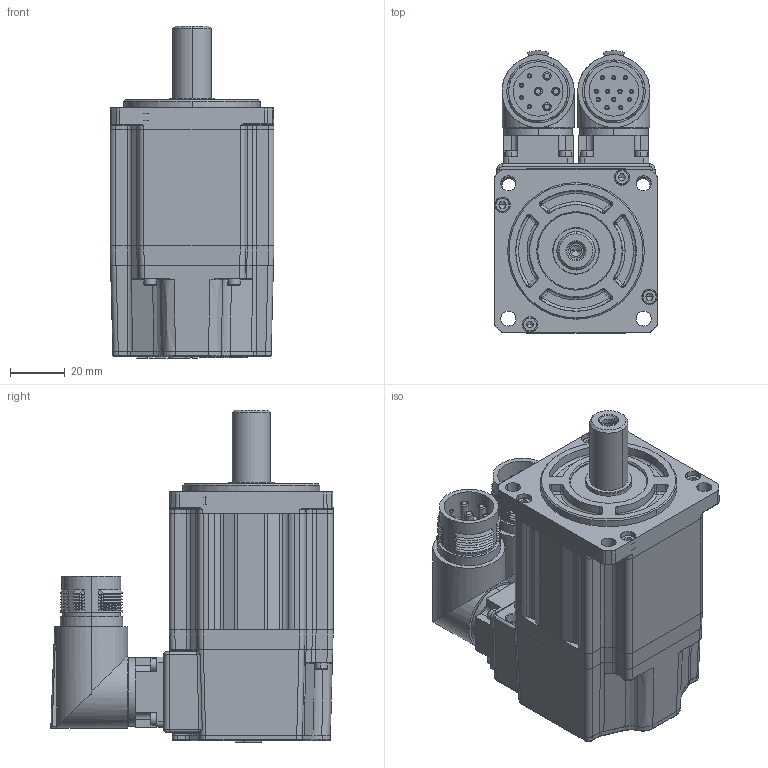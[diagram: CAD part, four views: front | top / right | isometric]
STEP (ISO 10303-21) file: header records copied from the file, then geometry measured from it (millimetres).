
FILE_DESCRIPTION (( 'STEP AP203' ), '1' );
FILE_NAME ('MC20-060-3L30-N201-0¡õPL-NNNN.STEP', '2025-07-29T14:35:20', ( '' ), ( '' ), 'SwSTEP 2.0', 'SolidWorks 2014', '' );
FILE_SCHEMA (( 'CONFIG_CONTROL_DESIGN' ));
Products named in the file (1): MC20-060-3L30-N201-0¡õPL-NNNN
Bounding box: 60 x 103.37 x 121.5 mm (x, y, z)
Volume: 352349.6 mm3; surface area: 87187.7 mm2
Topology: 23 solids, 23 shells, 1869 faces, 4446 edges, 2694 vertices
Faces by surface type: plane 745, cylinder 514, cone 333, bspline 131, torus 126, sphere 20
Entity records: 56018 total; most frequent: CARTESIAN_POINT 13723, DIRECTION 8870, ORIENTED_EDGE 8760, EDGE_CURVE 4380, AXIS2_PLACEMENT_3D 3376, VERTEX_POINT 2694, LINE 2118, VECTOR 2118
